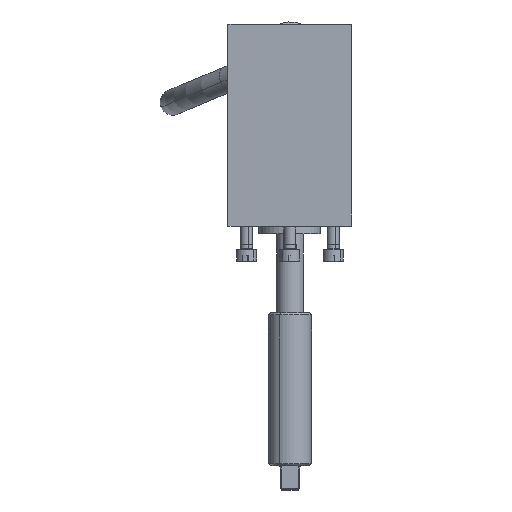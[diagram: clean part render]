
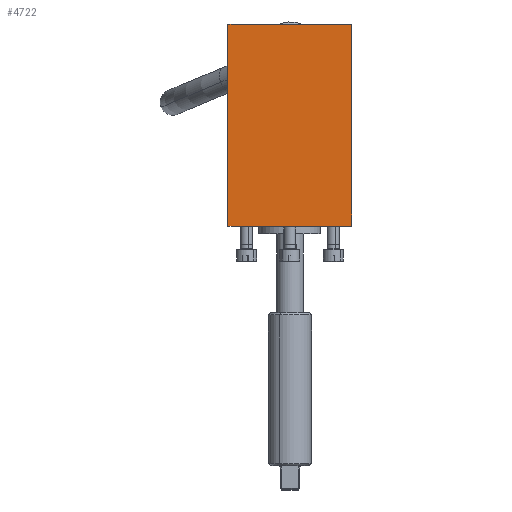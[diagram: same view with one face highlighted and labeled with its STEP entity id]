
A CAD part, top view. The second image highlights one B-rep face of the part: STEP entity #4722.
In plain terms, the highlighted planar face has unit normal (0, 0, 1).
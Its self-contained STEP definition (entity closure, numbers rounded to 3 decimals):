
#4585=CARTESIAN_POINT('Vertex',(40.,-58.2,536.1)) ;
#4590=CARTESIAN_POINT('Line Origine',(0.,-58.2,536.1)) ;
#4594=CARTESIAN_POINT('Vertex',(-40.,-58.2,536.1)) ;
#4692=CARTESIAN_POINT('Axis2P3D Location',(-40.,72.,536.1)) ;
#4697=CARTESIAN_POINT('Line Origine',(40.,6.9,536.1)) ;
#4701=CARTESIAN_POINT('Vertex',(40.,72.,536.1)) ;
#4704=CARTESIAN_POINT('Line Origine',(0.,72.,536.1)) ;
#4708=CARTESIAN_POINT('Vertex',(-40.,72.,536.1)) ;
#4711=CARTESIAN_POINT('Line Origine',(-40.,6.9,536.1)) ;
#4591=DIRECTION('Vector Direction',(1.,0.,0.)) ;
#4693=DIRECTION('Axis2P3D Direction',(0.,0.,-1.)) ;
#4694=DIRECTION('Axis2P3D XDirection',(1.,0.,0.)) ;
#4698=DIRECTION('Vector Direction',(0.,-1.,0.)) ;
#4705=DIRECTION('Vector Direction',(1.,0.,0.)) ;
#4712=DIRECTION('Vector Direction',(0.,-1.,0.)) ;
#4695=AXIS2_PLACEMENT_3D('Plane Axis2P3D',#4692,#4693,#4694) ;
#4717=ORIENTED_EDGE('',*,*,#4596,.T.) ;
#4718=ORIENTED_EDGE('',*,*,#4703,.F.) ;
#4719=ORIENTED_EDGE('',*,*,#4710,.F.) ;
#4720=ORIENTED_EDGE('',*,*,#4715,.T.) ;
#4592=VECTOR('Line Direction',#4591,1.) ;
#4699=VECTOR('Line Direction',#4698,1.) ;
#4706=VECTOR('Line Direction',#4705,1.) ;
#4713=VECTOR('Line Direction',#4712,1.) ;
#4722=ADVANCED_FACE('',(#4721),#4696,.F.) ;
#4596=EDGE_CURVE('',#4595,#4586,#4593,.T.) ;
#4703=EDGE_CURVE('',#4702,#4586,#4700,.T.) ;
#4710=EDGE_CURVE('',#4709,#4702,#4707,.T.) ;
#4715=EDGE_CURVE('',#4709,#4595,#4714,.T.) ;
#4716=EDGE_LOOP('',(#4717,#4718,#4719,#4720)) ;
#4721=FACE_OUTER_BOUND('',#4716,.T.) ;
#4593=LINE('Line',#4590,#4592) ;
#4700=LINE('Line',#4697,#4699) ;
#4707=LINE('Line',#4704,#4706) ;
#4714=LINE('Line',#4711,#4713) ;
#4696=PLANE('Plane',#4695) ;
#4586=VERTEX_POINT('',#4585) ;
#4595=VERTEX_POINT('',#4594) ;
#4702=VERTEX_POINT('',#4701) ;
#4709=VERTEX_POINT('',#4708) ;
